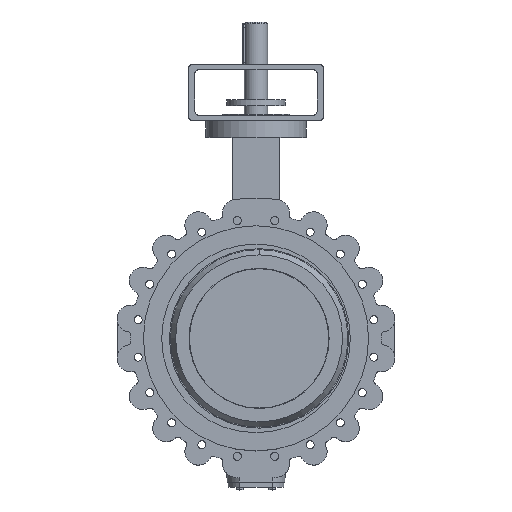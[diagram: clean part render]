
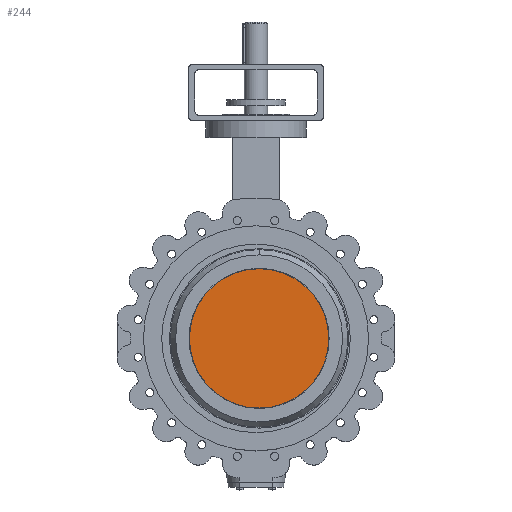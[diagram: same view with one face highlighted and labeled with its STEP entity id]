
A CAD part, top view. The second image highlights one B-rep face of the part: STEP entity #244.
In plain terms, the highlighted planar face has unit normal (0, 0, 1).
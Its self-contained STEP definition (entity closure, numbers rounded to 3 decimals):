
#244 = ADVANCED_FACE( '', ( #782 ), #783, .T. );
#782 = FACE_OUTER_BOUND( '', #1534, .T. );
#783 = PLANE( '', #1535 );
#1534 = EDGE_LOOP( '', ( #3236, #3237 ) );
#1535 = AXIS2_PLACEMENT_3D( '', #3238, #3239, #3240 );
#3236 = ORIENTED_EDGE( '', *, *, #4812, .T. );
#3237 = ORIENTED_EDGE( '', *, *, #5190, .T. );
#3238 = CARTESIAN_POINT( '', ( 8., 90.5, 74.6 ) );
#3239 = DIRECTION( '', ( 0., 0., 1. ) );
#3240 = DIRECTION( '', ( 0., 1., 0. ) );
#4812 = EDGE_CURVE( '', #5809, #5813, #5815, .T. );
#5190 = EDGE_CURVE( '', #5813, #5809, #6442, .T. );
#5809 = VERTEX_POINT( '', #7361 );
#5813 = VERTEX_POINT( '', #7366 );
#5815 = CIRCLE( '', #7369, 181. );
#6442 = CIRCLE( '', #8846, 181. );
#7361 = CARTESIAN_POINT( '', ( 8., 181., 74.6 ) );
#7366 = CARTESIAN_POINT( '', ( 8., -181., 74.6 ) );
#7369 = AXIS2_PLACEMENT_3D( '', #10004, #10005, #10006 );
#8846 = AXIS2_PLACEMENT_3D( '', #10724, #10725, #10726 );
#10004 = CARTESIAN_POINT( '', ( 8., 0., 74.6 ) );
#10005 = DIRECTION( '', ( 0., 0., 1. ) );
#10006 = DIRECTION( '', ( 0., 1., 0. ) );
#10724 = CARTESIAN_POINT( '', ( 8., 0., 74.6 ) );
#10725 = DIRECTION( '', ( 0., 0., 1. ) );
#10726 = DIRECTION( '', ( 0., 1., 0. ) );
